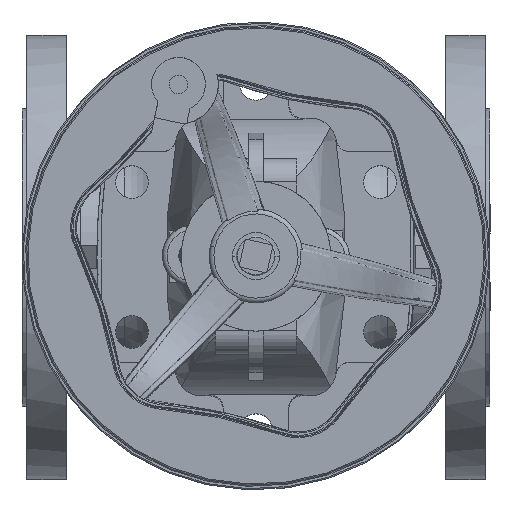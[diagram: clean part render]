
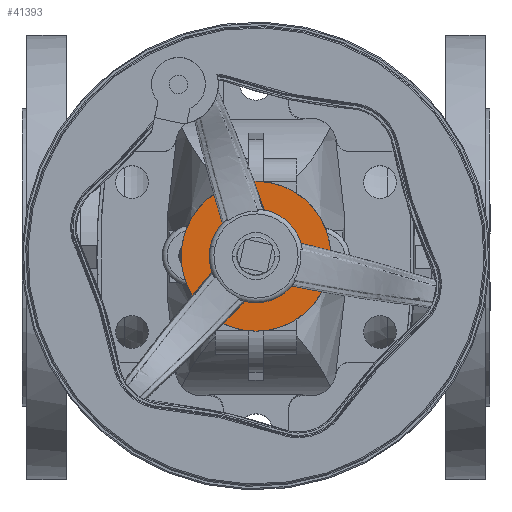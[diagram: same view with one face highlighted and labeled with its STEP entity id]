
A CAD part, top view. The second image highlights one B-rep face of the part: STEP entity #41393.
In plain terms, the highlighted planar face has unit normal (0, 0, 1).
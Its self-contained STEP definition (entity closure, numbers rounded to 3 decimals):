
#18367 = VERTEX_POINT('',#18368);
#18368 = CARTESIAN_POINT('',(761.954,17.797,
    451.732));
#18375 = CYLINDRICAL_SURFACE('',#18376,18.5);
#18376 = AXIS2_PLACEMENT_3D('',#18377,#18378,#18379);
#18377 = CARTESIAN_POINT('',(761.954,-0.703,
    444.732));
#18378 = DIRECTION('',(0.,0.,1.));
#18379 = DIRECTION('',(0.,1.,0.));
#18387 = CYLINDRICAL_SURFACE('',#18388,18.5);
#18388 = AXIS2_PLACEMENT_3D('',#18389,#18390,#18391);
#18389 = CARTESIAN_POINT('',(761.954,-0.703,
    444.732));
#18390 = DIRECTION('',(0.,0.,1.));
#18391 = DIRECTION('',(0.,1.,0.));
#18399 = EDGE_CURVE('',#18400,#18367,#18402,.T.);
#18400 = VERTEX_POINT('',#18401);
#18401 = CARTESIAN_POINT('',(761.954,-19.203,
    451.732));
#18402 = SURFACE_CURVE('',#18403,(#18408,#18415),.PCURVE_S1.);
#18403 = CIRCLE('',#18404,18.5);
#18404 = AXIS2_PLACEMENT_3D('',#18405,#18406,#18407);
#18405 = CARTESIAN_POINT('',(761.954,-0.703,
    451.732));
#18406 = DIRECTION('',(0.,0.,1.));
#18407 = DIRECTION('',(0.,1.,0.));
#18408 = PCURVE('',#18375,#18409);
#18409 = DEFINITIONAL_REPRESENTATION('',(#18410),#18414);
#18410 = LINE('',#18411,#18412);
#18411 = CARTESIAN_POINT('',(0.,7.));
#18412 = VECTOR('',#18413,1.);
#18413 = DIRECTION('',(1.,0.));
#18414 = ( GEOMETRIC_REPRESENTATION_CONTEXT(2) 
PARAMETRIC_REPRESENTATION_CONTEXT() REPRESENTATION_CONTEXT('2D SPACE',''
  ) );
#18415 = PCURVE('',#18416,#18421);
#18416 = PLANE('',#18417);
#18417 = AXIS2_PLACEMENT_3D('',#18418,#18419,#18420);
#18418 = CARTESIAN_POINT('',(761.954,31.297,
    451.732));
#18419 = DIRECTION('',(0.,0.,-1.));
#18420 = DIRECTION('',(0.,-1.,0.));
#18421 = DEFINITIONAL_REPRESENTATION('',(#18422),#18430);
#18422 = ( BOUNDED_CURVE() B_SPLINE_CURVE(2,(#18423,#18424,#18425,#18426
    ,#18427,#18428,#18429),.UNSPECIFIED.,.T.,.F.) 
B_SPLINE_CURVE_WITH_KNOTS((1,2,2,2,2,1),(-2.094,0.,
    2.094,4.189,6.283,8.378),
.UNSPECIFIED.) CURVE() GEOMETRIC_REPRESENTATION_ITEM() 
RATIONAL_B_SPLINE_CURVE((1.,0.5,1.,0.5,1.,0.5,1.)) REPRESENTATION_ITEM(
  '') );
#18423 = CARTESIAN_POINT('',(13.5,0.));
#18424 = CARTESIAN_POINT('',(13.5,32.043));
#18425 = CARTESIAN_POINT('',(41.25,16.021));
#18426 = CARTESIAN_POINT('',(69.,0.));
#18427 = CARTESIAN_POINT('',(41.25,-16.021));
#18428 = CARTESIAN_POINT('',(13.5,-32.043));
#18429 = CARTESIAN_POINT('',(13.5,0.));
#18430 = ( GEOMETRIC_REPRESENTATION_CONTEXT(2) 
PARAMETRIC_REPRESENTATION_CONTEXT() REPRESENTATION_CONTEXT('2D SPACE',''
  ) );
#18683 = EDGE_CURVE('',#18684,#18686,#18688,.T.);
#18684 = VERTEX_POINT('',#18685);
#18685 = CARTESIAN_POINT('',(761.954,-32.703,
    451.732));
#18686 = VERTEX_POINT('',#18687);
#18687 = CARTESIAN_POINT('',(761.954,31.297,
    451.732));
#18688 = SURFACE_CURVE('',#18689,(#18694,#18706),.PCURVE_S1.);
#18689 = CIRCLE('',#18690,32.);
#18690 = AXIS2_PLACEMENT_3D('',#18691,#18692,#18693);
#18691 = CARTESIAN_POINT('',(761.954,-0.703,
    451.732));
#18692 = DIRECTION('',(0.,0.,-1.));
#18693 = DIRECTION('',(0.,-1.,0.));
#18694 = PCURVE('',#18695,#18700);
#18695 = CYLINDRICAL_SURFACE('',#18696,32.);
#18696 = AXIS2_PLACEMENT_3D('',#18697,#18698,#18699);
#18697 = CARTESIAN_POINT('',(761.954,-0.703,
    249.755));
#18698 = DIRECTION('',(0.,0.,-1.));
#18699 = DIRECTION('',(0.,-1.,0.));
#18700 = DEFINITIONAL_REPRESENTATION('',(#18701),#18705);
#18701 = LINE('',#18702,#18703);
#18702 = CARTESIAN_POINT('',(0.,-201.977));
#18703 = VECTOR('',#18704,1.);
#18704 = DIRECTION('',(1.,0.));
#18705 = ( GEOMETRIC_REPRESENTATION_CONTEXT(2) 
PARAMETRIC_REPRESENTATION_CONTEXT() REPRESENTATION_CONTEXT('2D SPACE',''
  ) );
#18706 = PCURVE('',#18416,#18707);
#18707 = DEFINITIONAL_REPRESENTATION('',(#18708),#18712);
#18708 = CIRCLE('',#18709,32.);
#18709 = AXIS2_PLACEMENT_2D('',#18710,#18711);
#18710 = CARTESIAN_POINT('',(32.,0.));
#18711 = DIRECTION('',(1.,0.));
#18712 = ( GEOMETRIC_REPRESENTATION_CONTEXT(2) 
PARAMETRIC_REPRESENTATION_CONTEXT() REPRESENTATION_CONTEXT('2D SPACE',''
  ) );
#18730 = CYLINDRICAL_SURFACE('',#18731,32.);
#18731 = AXIS2_PLACEMENT_3D('',#18732,#18733,#18734);
#18732 = CARTESIAN_POINT('',(761.954,-0.703,
    249.755));
#18733 = DIRECTION('',(0.,0.,-1.));
#18734 = DIRECTION('',(0.,-1.,0.));
#41360 = EDGE_CURVE('',#18686,#18684,#41361,.T.);
#41361 = SURFACE_CURVE('',#41362,(#41367,#41374),.PCURVE_S1.);
#41362 = CIRCLE('',#41363,32.);
#41363 = AXIS2_PLACEMENT_3D('',#41364,#41365,#41366);
#41364 = CARTESIAN_POINT('',(761.954,-0.703,
    451.732));
#41365 = DIRECTION('',(0.,0.,-1.));
#41366 = DIRECTION('',(0.,-1.,0.));
#41367 = PCURVE('',#18730,#41368);
#41368 = DEFINITIONAL_REPRESENTATION('',(#41369),#41373);
#41369 = LINE('',#41370,#41371);
#41370 = CARTESIAN_POINT('',(0.,-201.977));
#41371 = VECTOR('',#41372,1.);
#41372 = DIRECTION('',(1.,0.));
#41373 = ( GEOMETRIC_REPRESENTATION_CONTEXT(2) 
PARAMETRIC_REPRESENTATION_CONTEXT() REPRESENTATION_CONTEXT('2D SPACE',''
  ) );
#41374 = PCURVE('',#18416,#41375);
#41375 = DEFINITIONAL_REPRESENTATION('',(#41376),#41380);
#41376 = CIRCLE('',#41377,32.);
#41377 = AXIS2_PLACEMENT_2D('',#41378,#41379);
#41378 = CARTESIAN_POINT('',(32.,0.));
#41379 = DIRECTION('',(1.,0.));
#41380 = ( GEOMETRIC_REPRESENTATION_CONTEXT(2) 
PARAMETRIC_REPRESENTATION_CONTEXT() REPRESENTATION_CONTEXT('2D SPACE',''
  ) );
#41393 = ADVANCED_FACE('',(#41394,#41423),#18416,.F.);
#41394 = FACE_BOUND('',#41395,.T.);
#41395 = EDGE_LOOP('',(#41396,#41422));
#41396 = ORIENTED_EDGE('',*,*,#41397,.F.);
#41397 = EDGE_CURVE('',#18367,#18400,#41398,.T.);
#41398 = SURFACE_CURVE('',#41399,(#41404,#41415),.PCURVE_S1.);
#41399 = CIRCLE('',#41400,18.5);
#41400 = AXIS2_PLACEMENT_3D('',#41401,#41402,#41403);
#41401 = CARTESIAN_POINT('',(761.954,-0.703,
    451.732));
#41402 = DIRECTION('',(0.,0.,1.));
#41403 = DIRECTION('',(0.,1.,0.));
#41404 = PCURVE('',#18416,#41405);
#41405 = DEFINITIONAL_REPRESENTATION('',(#41406),#41414);
#41406 = ( BOUNDED_CURVE() B_SPLINE_CURVE(2,(#41407,#41408,#41409,#41410
    ,#41411,#41412,#41413),.UNSPECIFIED.,.T.,.F.) 
B_SPLINE_CURVE_WITH_KNOTS((1,2,2,2,2,1),(-2.094,0.,
    2.094,4.189,6.283,8.378),
.UNSPECIFIED.) CURVE() GEOMETRIC_REPRESENTATION_ITEM() 
RATIONAL_B_SPLINE_CURVE((1.,0.5,1.,0.5,1.,0.5,1.)) REPRESENTATION_ITEM(
  '') );
#41407 = CARTESIAN_POINT('',(13.5,0.));
#41408 = CARTESIAN_POINT('',(13.5,32.043));
#41409 = CARTESIAN_POINT('',(41.25,16.021));
#41410 = CARTESIAN_POINT('',(69.,0.));
#41411 = CARTESIAN_POINT('',(41.25,-16.021));
#41412 = CARTESIAN_POINT('',(13.5,-32.043));
#41413 = CARTESIAN_POINT('',(13.5,0.));
#41414 = ( GEOMETRIC_REPRESENTATION_CONTEXT(2) 
PARAMETRIC_REPRESENTATION_CONTEXT() REPRESENTATION_CONTEXT('2D SPACE',''
  ) );
#41415 = PCURVE('',#18387,#41416);
#41416 = DEFINITIONAL_REPRESENTATION('',(#41417),#41421);
#41417 = LINE('',#41418,#41419);
#41418 = CARTESIAN_POINT('',(0.,7.));
#41419 = VECTOR('',#41420,1.);
#41420 = DIRECTION('',(1.,0.));
#41421 = ( GEOMETRIC_REPRESENTATION_CONTEXT(2) 
PARAMETRIC_REPRESENTATION_CONTEXT() REPRESENTATION_CONTEXT('2D SPACE',''
  ) );
#41422 = ORIENTED_EDGE('',*,*,#18399,.F.);
#41423 = FACE_BOUND('',#41424,.T.);
#41424 = EDGE_LOOP('',(#41425,#41426));
#41425 = ORIENTED_EDGE('',*,*,#18683,.F.);
#41426 = ORIENTED_EDGE('',*,*,#41360,.F.);
